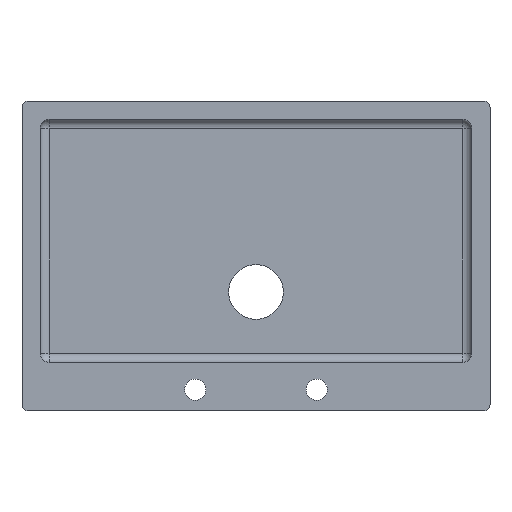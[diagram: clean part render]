
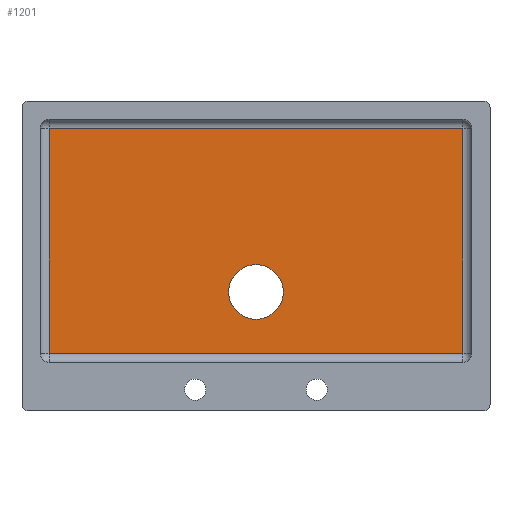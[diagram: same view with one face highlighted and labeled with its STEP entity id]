
A CAD part, top view. The second image highlights one B-rep face of the part: STEP entity #1201.
In plain terms, the highlighted planar face has unit normal (0, 0, 1).
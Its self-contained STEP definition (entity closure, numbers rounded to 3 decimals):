
#1077=CARTESIAN_POINT('Vertex',(45.,-58.85,-199.)) ;
#1080=CARTESIAN_POINT('Axis2P3D Location',(0.,-58.85,-199.)) ;
#1084=CARTESIAN_POINT('Vertex',(-45.,-58.85,-199.)) ;
#1099=CARTESIAN_POINT('Axis2P3D Location',(0.,-58.85,-199.)) ;
#1158=CARTESIAN_POINT('Axis2P3D Location',(0.,25.15,-199.)) ;
#1163=CARTESIAN_POINT('Line Origine',(0.,-159.85,-199.)) ;
#1167=CARTESIAN_POINT('Vertex',(340.,-159.85,-199.)) ;
#1169=CARTESIAN_POINT('Vertex',(-340.,-159.85,-199.)) ;
#1172=CARTESIAN_POINT('Line Origine',(340.,25.15,-199.)) ;
#1176=CARTESIAN_POINT('Vertex',(340.,210.15,-199.)) ;
#1179=CARTESIAN_POINT('Line Origine',(0.,210.15,-199.)) ;
#1183=CARTESIAN_POINT('Vertex',(-340.,210.15,-199.)) ;
#1186=CARTESIAN_POINT('Line Origine',(-340.,25.15,-199.)) ;
#1081=DIRECTION('Axis2P3D Direction',(0.,0.,1.)) ;
#1100=DIRECTION('Axis2P3D Direction',(0.,0.,1.)) ;
#1159=DIRECTION('Axis2P3D Direction',(0.,0.,1.)) ;
#1160=DIRECTION('Axis2P3D XDirection',(1.,0.,0.)) ;
#1164=DIRECTION('Vector Direction',(1.,0.,0.)) ;
#1173=DIRECTION('Vector Direction',(0.,1.,0.)) ;
#1180=DIRECTION('Vector Direction',(1.,0.,0.)) ;
#1187=DIRECTION('Vector Direction',(0.,1.,0.)) ;
#1082=AXIS2_PLACEMENT_3D('Circle Axis2P3D',#1080,#1081,$) ;
#1101=AXIS2_PLACEMENT_3D('Circle Axis2P3D',#1099,#1100,$) ;
#1161=AXIS2_PLACEMENT_3D('Plane Axis2P3D',#1158,#1159,#1160) ;
#1192=ORIENTED_EDGE('',*,*,#1171,.F.) ;
#1193=ORIENTED_EDGE('',*,*,#1178,.F.) ;
#1194=ORIENTED_EDGE('',*,*,#1185,.F.) ;
#1195=ORIENTED_EDGE('',*,*,#1190,.F.) ;
#1198=ORIENTED_EDGE('',*,*,#1086,.F.) ;
#1199=ORIENTED_EDGE('',*,*,#1103,.F.) ;
#1200=FACE_BOUND('',#1197,.T.) ;
#1165=VECTOR('Line Direction',#1164,1.) ;
#1174=VECTOR('Line Direction',#1173,1.) ;
#1181=VECTOR('Line Direction',#1180,1.) ;
#1188=VECTOR('Line Direction',#1187,1.) ;
#1201=ADVANCED_FACE('Vasca',(#1196,#1200),#1162,.T.) ;
#1083=CIRCLE('generated circle',#1082,45.) ;
#1102=CIRCLE('generated circle',#1101,45.) ;
#1086=EDGE_CURVE('',#1078,#1085,#1083,.T.) ;
#1103=EDGE_CURVE('',#1085,#1078,#1102,.T.) ;
#1171=EDGE_CURVE('',#1168,#1170,#1166,.F.) ;
#1178=EDGE_CURVE('',#1177,#1168,#1175,.F.) ;
#1185=EDGE_CURVE('',#1184,#1177,#1182,.T.) ;
#1190=EDGE_CURVE('',#1170,#1184,#1189,.T.) ;
#1191=EDGE_LOOP('',(#1192,#1193,#1194,#1195)) ;
#1197=EDGE_LOOP('',(#1198,#1199)) ;
#1196=FACE_OUTER_BOUND('',#1191,.T.) ;
#1166=LINE('Line',#1163,#1165) ;
#1175=LINE('Line',#1172,#1174) ;
#1182=LINE('Line',#1179,#1181) ;
#1189=LINE('Line',#1186,#1188) ;
#1162=PLANE('',#1161) ;
#1078=VERTEX_POINT('',#1077) ;
#1085=VERTEX_POINT('',#1084) ;
#1168=VERTEX_POINT('',#1167) ;
#1170=VERTEX_POINT('',#1169) ;
#1177=VERTEX_POINT('',#1176) ;
#1184=VERTEX_POINT('',#1183) ;
